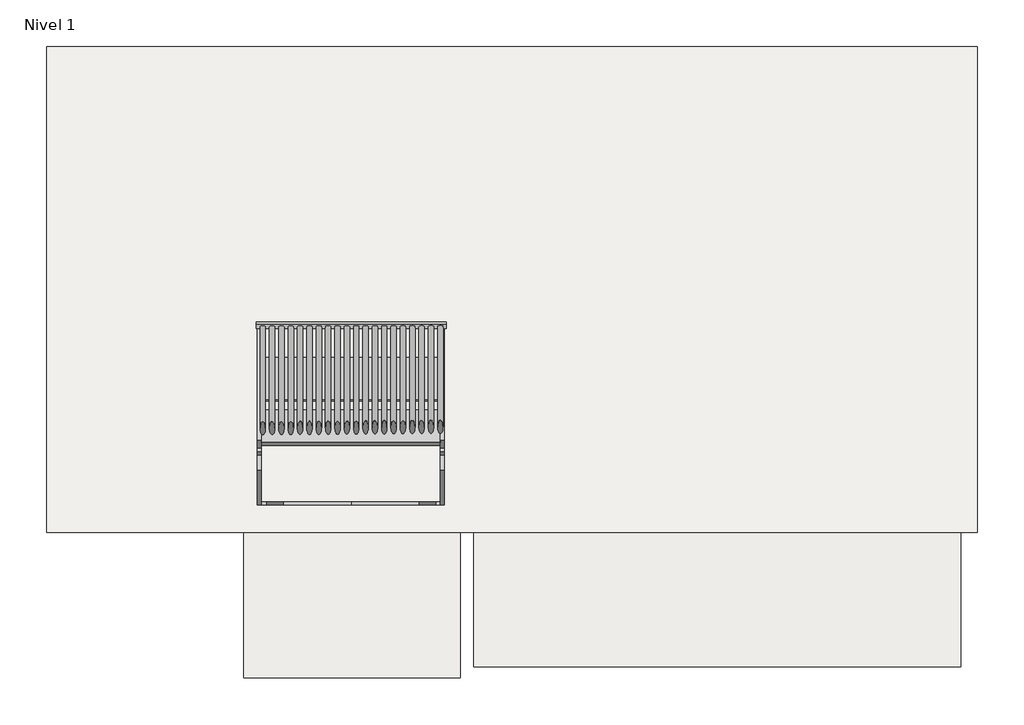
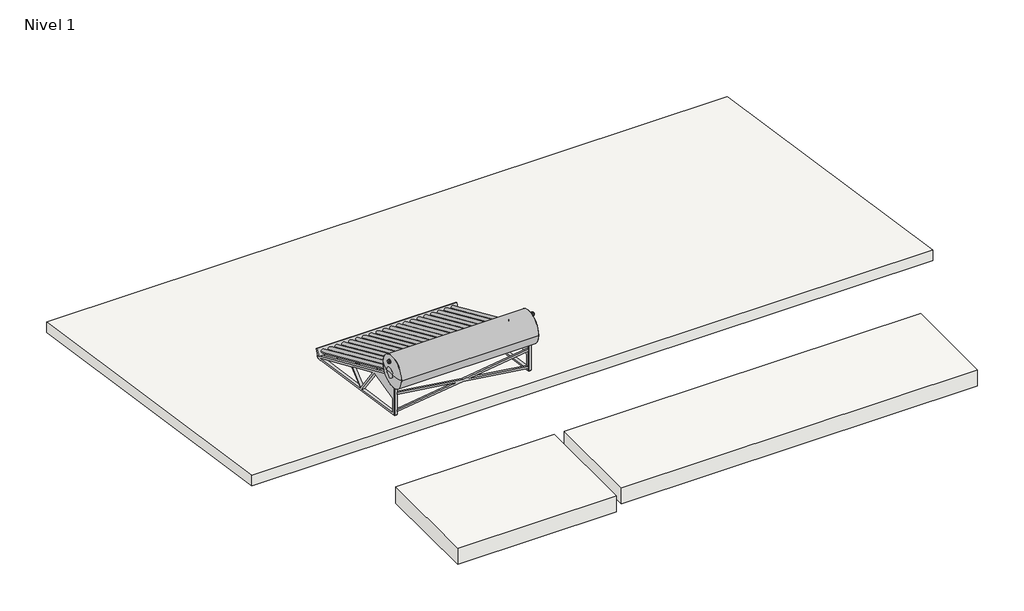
# One storey: 3 roofs, 1 covering, 1 proxy.
"""IFC4 building model written with IfcOpenShell, lengths in millimetres."""

from ifc_helpers import new_model, si_unit, frame, origin, place, context, project, spatial, polyline, outline, extrude, transform, mapped, element, save
from components import mechanical_equipment_34cca83e

model = new_model("IFC4")

# Units and contexts
model_context = context("Model", 3, world=origin())
ifc_project = project(units=[si_unit("LENGTHUNIT", "METRE", prefix="MILLI")], contexts=[model_context])

# Site, building, storey
site = spatial("IfcSite", under=ifc_project)
building = spatial("IfcBuilding", under=site)
storey = spatial("IfcBuildingStorey", under=building, Name="Nivel 1", Elevation=2700.0)

# Proxy
placement = place(None, origin())
mechanical_equipment_shape = mechanical_equipment_34cca83e(model_context)
element("IfcBuildingElementProxy", 1, Name="calentador solar techo inclinado : calentador solar techo inclinado", ObjectType="calentador solar techo inclinado : calentador solar techo inclinado", at=placement, inside=storey, context=model_context, shape_type="MappedRepresentation", body=[
    mapped(mechanical_equipment_shape, transform((-5756.0136856, -1469.5216433, 3280.8822513), x_axis=(-1.0, 0.0, 0.0), y_axis=(0.0, -0.9999999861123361, 0.0001666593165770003), z_axis=(0.0, 0.0001666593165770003, 0.9999999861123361))),
])

# Covering
element("IfcCovering", 2, ObjectType="1282-Aplicado de yeso", at=placement, inside=storey, context=model_context, shape_type="SweptSolid", body=[
    extrude(outline(polyline([(-1634.0487, 3443.9790458), (2538.0325688, 2818.1668554), (2538.0325688, 2797.943107), (-1634.0487, 3423.7552974), (-1634.0487, 3443.9790458)])), frame((-8840.7183643, 0.0, 0.0), z_axis=(1.0, 0.0, 0.0), x_axis=(0.0, 1.0, 0.0)), (0.0, 0.0, 1.0), 9640.0),
])

# Roofs
element("IfcRoof", 3, ObjectType="PC-SF-100", at=placement, inside=storey, context=model_context, shape_type="SweptSolid", body=[
    extrude(outline(polyline([(-1812.5487, 3633.9165947), (3380.8520792, 2854.9064778), (3380.8520792, 2699.183615), (-1812.5487, 3478.1937319), (-1812.5487, 3633.9165947)])), frame((-9008.335471, 0.0, 0.0), z_axis=(1.0, 0.0, 0.0), x_axis=(0.0, 1.0, 0.0)), (0.0, 0.0, 1.0), 9947.75),
])
element("IfcRoof", 4, ObjectType="PC-SF-101", at=placement, inside=storey, context=model_context, shape_type="SweptSolid", body=[
    extrude(outline(polyline([(-6901.311969, -3371.7853265), (-6901.311969, -1812.0487), (-4586.311969, -1812.0487), (-4586.311969, -3371.7853265), (-6901.311969, -3371.7853265)])), frame((0.0, 0.0, 2470.0), z_axis=(0.0, 0.0, 1.0), x_axis=(1.0, 0.0, 0.0)), (0.0, 0.0, 1.0), 250.0),
])
element("IfcRoof", 5, ObjectType="PC-SF-101", at=placement, inside=storey, context=model_context, shape_type="SweptSolid", body=[
    extrude(outline(polyline([(761.414529, -3252.7853265), (-4441.311969, -3252.7853265), (-4441.311969, -1812.0487), (761.414529, -1812.0487), (761.414529, -3252.7853265)])), frame((0.0, 0.0, 2470.0), z_axis=(0.0, 0.0, 1.0), x_axis=(1.0, 0.0, 0.0)), (0.0, 0.0, 1.0), 250.0),
])

save(model, "model.ifc")
